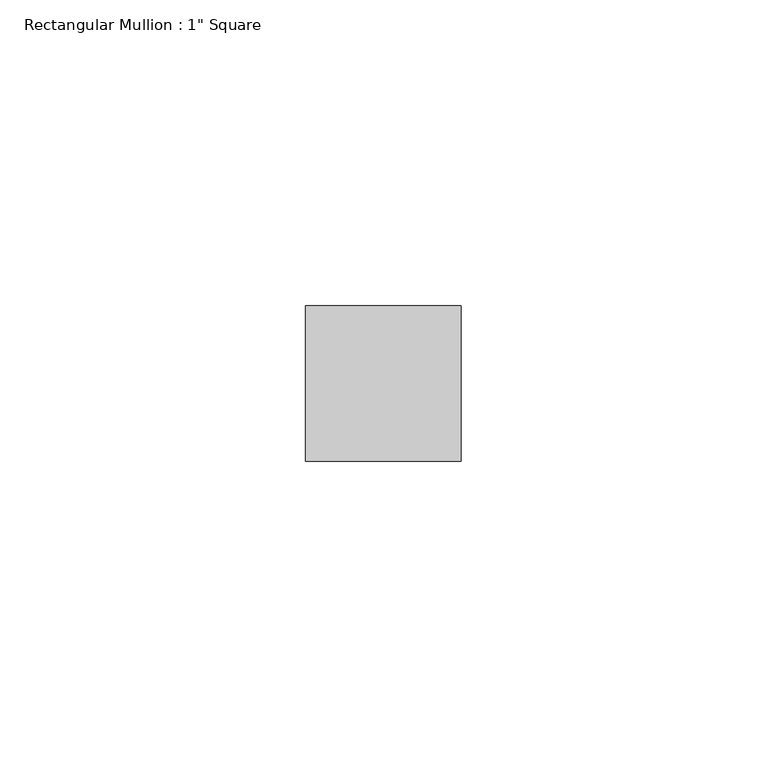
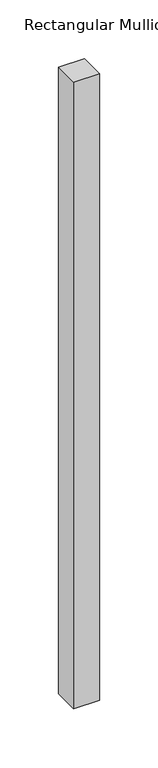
"""IFC4 building model written with IfcOpenShell, lengths in millimetres: member geometry."""

from ifc_helpers import new_model, si_unit, frame, origin, place, context, project, spatial, polyline, outline, extrude, source, transform, mapped, element, save


def member_a9a1d196(model_context):
    return source(origin(), model_context, "Body", "SweptSolid", [
        extrude(outline(polyline([(12.7, 12.7), (12.7, -12.7), (-12.7, -12.7), (-12.7, 12.7), (12.7, 12.7)])), frame((0.0, 0.0, -651.5842225), z_axis=(0.0, 0.0, 1.0), x_axis=(1.0, 0.0, 0.0)), (0.0, 0.0, 1.0), 651.5842225),
    ])


if __name__ == "__main__":
    model = new_model("IFC4")
    model_context = context("Model", 3, world=origin())
    ifc_project = project(units=[si_unit("LENGTHUNIT", "METRE", prefix="MILLI")], contexts=[model_context])
    site = spatial("IfcSite", under=ifc_project)
    building = spatial("IfcBuilding", under=site)
    placement = place(None, origin())
    member_shape = member_a9a1d196(model_context)
    element("IfcMember", 1, ObjectType="Rectangular Mullion : 1\" Square", at=placement, inside=building, context=model_context, shape_type="MappedRepresentation", body=[
        mapped(member_shape, transform((0.0, 0.0, 0.0), x_axis=(1.0, 0.0, 0.0), y_axis=(0.0, 1.0, 0.0), z_axis=(0.0, 0.0, 1.0))),
    ])
    save(model, "model.ifc")
